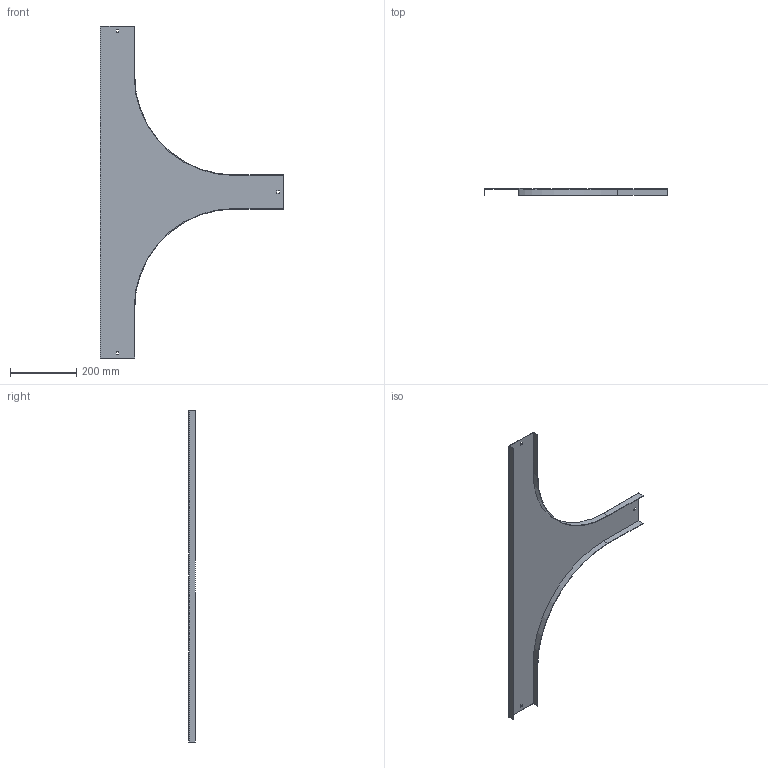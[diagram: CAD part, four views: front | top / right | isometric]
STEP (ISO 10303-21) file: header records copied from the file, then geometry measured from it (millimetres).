
FILE_DESCRIPTION (( 'STEP AP214' ), '1' );
FILE_NAME ('A2_15N3R100.step', '2025-02-21T12:06:23', ( '' ), ( '' ), 'SwSTEP 2.0', 'SolidWorks 2023', '' );
FILE_SCHEMA (( 'AUTOMOTIVE_DESIGN' ));
Length unit declared in the file: millimetre
Products named in the file (1): A2_15N3R100
Bounding box: 551.5 x 20 x 1000 mm (x, y, z)
Volume: 351382.9 mm3; surface area: 473086.7 mm2
Topology: 1 solids, 1 shells, 34 faces, 96 edges, 64 vertices
Faces by surface type: plane 30, cylinder 4
Entity records: 1123 total; most frequent: CARTESIAN_POINT 195, ORIENTED_EDGE 192, DIRECTION 174, EDGE_CURVE 96, LINE 88, VECTOR 88, VERTEX_POINT 64, AXIS2_PLACEMENT_3D 43
